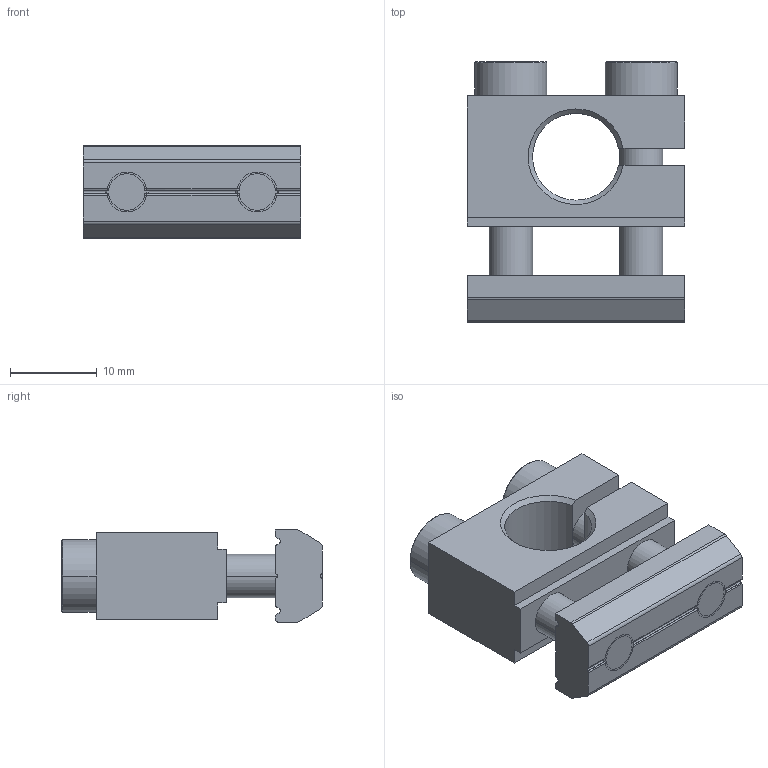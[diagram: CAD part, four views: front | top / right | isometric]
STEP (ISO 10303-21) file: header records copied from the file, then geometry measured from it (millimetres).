
FILE_DESCRIPTION (( 'STEP AP214' ), '1' );
FILE_NAME ('SMBC-1025T.STEP', '2022-12-08T08:21:33', ( '' ), ( '' ), 'SwSTEP 2.0', 'SolidWorks 2018', '' );
FILE_SCHEMA (( 'AUTOMOTIVE_DESIGN' ));
Length unit declared in the file: millimetre
Products named in the file (5): PTN-M5P15; PTS-M5; PTC-M5L25; SMBC-1025; SMBC-1025T
Assembly tree (6 placements, depth 2):
  SMBC-1025T
    SMBC-1025
    PTC-M5L25  x2
    PTS-M5  x2
    PTN-M5P15
Bounding box: 25 x 30 x 10.6 mm (x, y, z)
Volume: 4566.8 mm3; surface area: 4675.9 mm2
Topology: 6 solids, 6 shells, 462 faces, 1342 edges, 890 vertices
Faces by surface type: plane 383, cylinder 60, cone 19
Entity records: 9570 total; most frequent: CARTESIAN_POINT 1817, ORIENTED_EDGE 1616, DIRECTION 1582, EDGE_CURVE 808, AXIS2_PLACEMENT_3D 541, VERTEX_POINT 536, VECTOR 500, LINE 500
